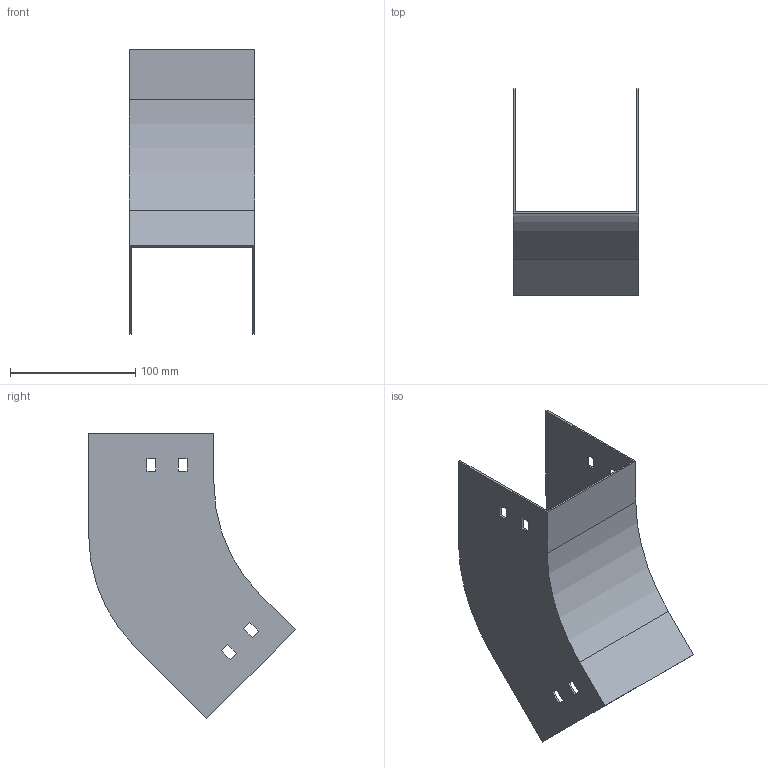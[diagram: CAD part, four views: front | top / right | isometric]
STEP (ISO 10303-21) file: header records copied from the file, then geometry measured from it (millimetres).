
FILE_DESCRIPTION (( 'STEP AP214' ), '1' );
FILE_NAME ('D4_101.step', '2025-07-16T09:06:47', ( '' ), ( '' ), 'SwSTEP 2.0', 'SolidWorks 2023', '' );
FILE_SCHEMA (( 'AUTOMOTIVE_DESIGN' ));
Length unit declared in the file: millimetre
Products named in the file (1): D4_101
Bounding box: 100 x 164.9 x 227.38 mm (x, y, z)
Volume: 92662.6 mm3; surface area: 125630.4 mm2
Topology: 1 solids, 1 shells, 50 faces, 144 edges, 96 vertices
Faces by surface type: plane 46, cylinder 4
Entity records: 1671 total; most frequent: CARTESIAN_POINT 291, ORIENTED_EDGE 288, DIRECTION 254, EDGE_CURVE 144, LINE 136, VECTOR 136, VERTEX_POINT 96, EDGE_LOOP 66
